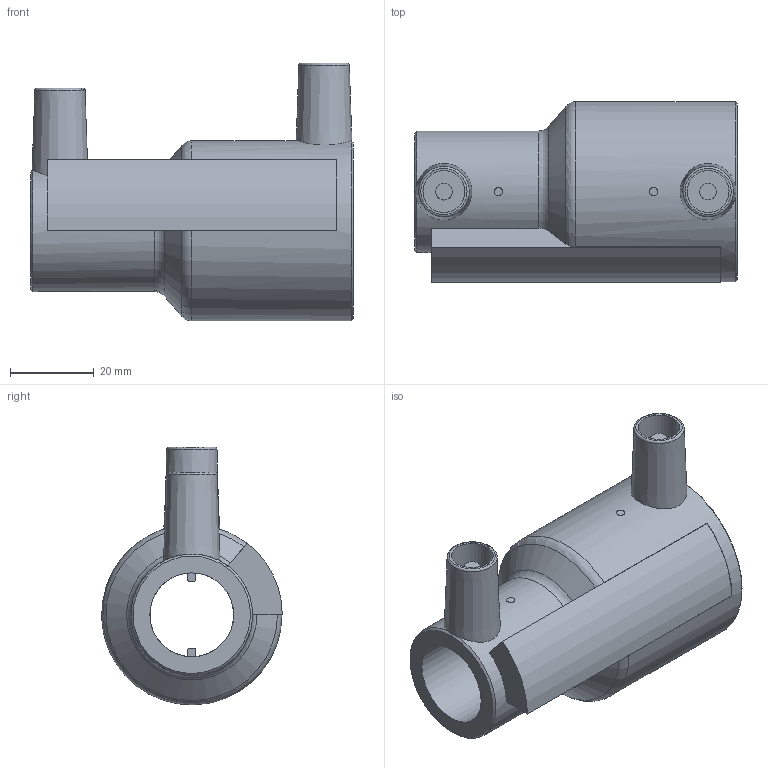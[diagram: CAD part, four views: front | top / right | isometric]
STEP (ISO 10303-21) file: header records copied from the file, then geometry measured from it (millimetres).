
FILE_DESCRIPTION(/* description */ ('Unknown'),/* implementation_level */ '2;1');
FILE_NAME(/* name */ 'REP032020C',/* time_stamp */ '2021-05-24T15:44:03+02:00',/* author */ ('Unknown'),/* organization */ ('Unknown'),/* preprocessor_version */ 'ST-DEVELOPER v16.7',/* originating_system */ 'Solid Edge',/* authorisation */ 'Unknown');
FILE_SCHEMA (('AUTOMOTIVE_DESIGN {1 0 10303 214 3 1 1}'));
Length unit declared in the file: millimetre
Products named in the file (1): REP032020C
Bounding box: 77 x 43.09 x 61.5 mm (x, y, z)
Volume: 47609 mm3; surface area: 20591.7 mm2
Topology: 1 solids, 1 shells, 49 faces, 114 edges, 74 vertices
Faces by surface type: plane 23, cylinder 17, cone 5, torus 4
Full cylindrical faces by diameter (mm): 4 x2, 10 x2, 20 x1, 29 x1, 32 x1, 43 x1
Entity records: 1340 total; most frequent: CARTESIAN_POINT 280, DIRECTION 225, ORIENTED_EDGE 182, AXIS2_PLACEMENT_3D 95, EDGE_CURVE 91, EDGE_LOOP 72, FACE_BOUND 72, VERTEX_POINT 65
